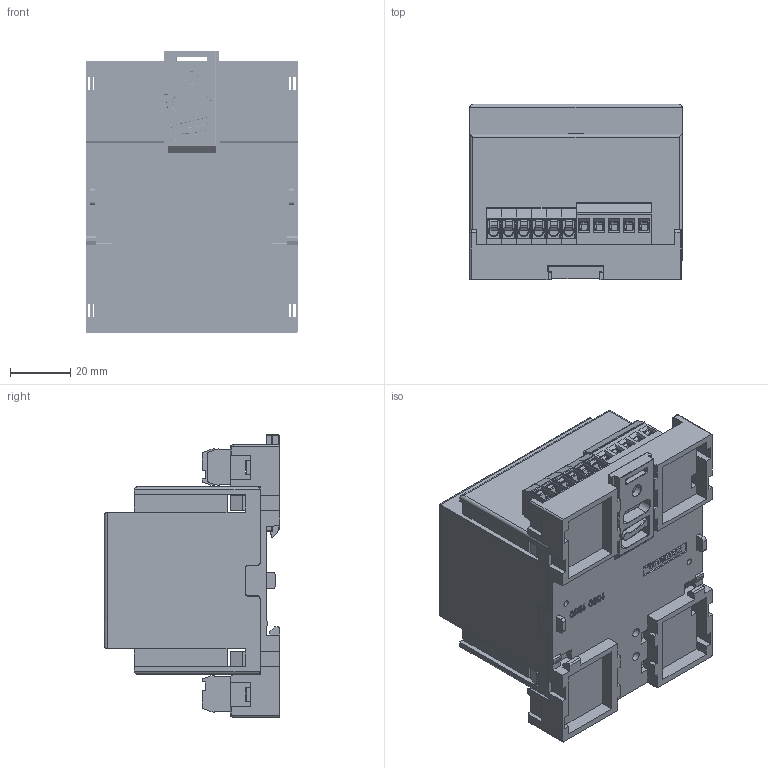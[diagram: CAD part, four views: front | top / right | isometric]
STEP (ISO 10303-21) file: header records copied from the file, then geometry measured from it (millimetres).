
FILE_DESCRIPTION (( 'STEP AP214' ), '1' );
FILE_NAME ('12430-1900-00_3D.STEP', '2014-03-25T13:11:18', ( '' ), ( '' ), 'SwSTEP 2.0', 'SolidWorks 2014', '' );
FILE_SCHEMA (( 'AUTOMOTIVE_DESIGN' ));
Length unit declared in the file: millimetre
Products named in the file (11): 12430-1200-02_3D; V4_Frontplatte; 1080 1960.3_3D_V4_OT; V4_Leiterplatte; V-Riegel_3D; 1080 1950.4_3D_V4_UT; 12430-1900-00_3D; 31137105; 31007103; 31137108
Assembly tree (11 placements, depth 2):
  12430-1900-00_3D
    1080 1950.4_3D_V4_UT
    V-Riegel_3D
    V4_Leiterplatte
    1080 1960.3_3D_V4_OT
    V4_Frontplatte
    12430-1200-02_3D
    31137108
    31007103  x2
    31007103
    31137105
Bounding box: 70.5 x 58.3 x 93.79 mm (x, y, z)
Volume: 71406.1 mm3; surface area: 89152.3 mm2
Topology: 10 solids, 450 shells, 7234 faces, 18725 edges, 12394 vertices
Faces by surface type: plane 5498, bspline 820, cylinder 727, cone 142, torus 33, sphere 14
Full cylindrical faces by diameter (mm): 0.2 x34, 0.53 x4, 0.6 x4, 1.059 x1, 1.2 x1, 1.5 x17, 1.766 x1, 1.8 x4, 1.84 x2, 1.9 x9, 2 x25, 2.2 x2, 2.25 x13, 2.4 x13, 2.7 x13, 2.8 x10, 3 x39, 3.5 x4, 3.658 x2, 3.9 x13, 4.2 x1, 4.5 x2, 6 x2
Entity records: 237843 total; most frequent: CARTESIAN_POINT 70998, ORIENTED_EDGE 34348, DIRECTION 29179, EDGE_CURVE 17234, VECTOR 13471, LINE 13471, VERTEX_POINT 11582, AXIS2_PLACEMENT_3D 7854
